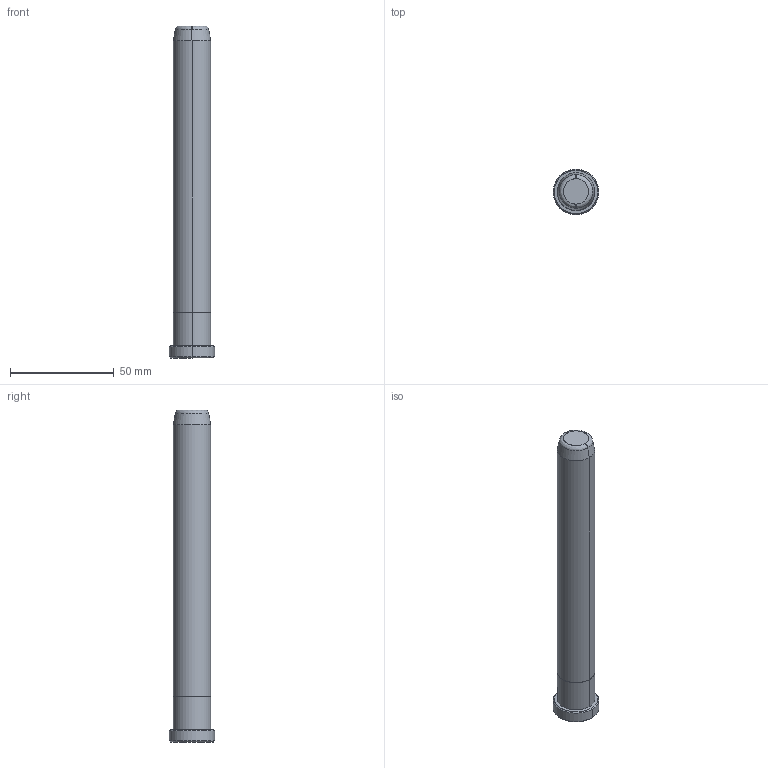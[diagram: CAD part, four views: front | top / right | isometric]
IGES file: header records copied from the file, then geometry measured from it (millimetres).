
Start section: START RECORD GO HERE.
Global section: file name: B82818160.igs; native system: DASSAULT SYSTEMES CATIA V5 R20 - www.3ds.com; preprocessor: CATIA Version 5 Release 20 ; author: Utente; organization: NB04-ASUS; date: 20200419.173540; units: millimetre
Bounding box: 22 x 22 x 160 mm (x, y, z)
Surface area: 9728 mm2 (no closed solid volume)
Topology: 0 solids, 0 shells, 20 faces, 80 edges, 80 vertices
Faces by surface type: revolution 16, plane 4
